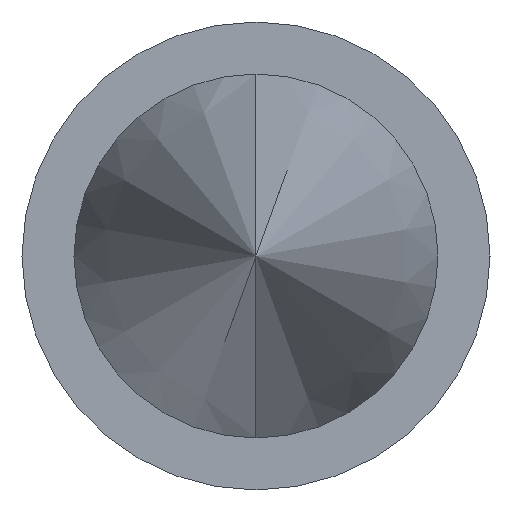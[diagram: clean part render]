
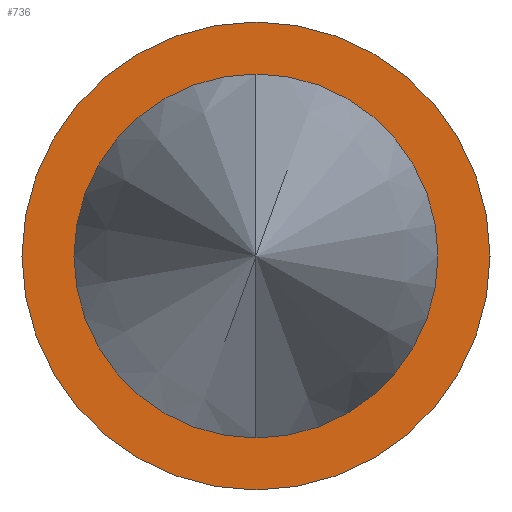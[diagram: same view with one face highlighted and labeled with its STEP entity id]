
A CAD part, left-side view. The second image highlights one B-rep face of the part: STEP entity #736.
In plain terms, the highlighted planar face has unit normal (-1, 0, 0).
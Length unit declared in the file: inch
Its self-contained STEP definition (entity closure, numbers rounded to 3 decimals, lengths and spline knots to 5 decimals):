
#8 = AXIS2_PLACEMENT_3D ( 'NONE', #221, #428, #302 ) ;
#13 = FACE_OUTER_BOUND ( 'NONE', #261, .T. ) ;
#32 = AXIS2_PLACEMENT_3D ( 'NONE', #722, #64, #194 ) ;
#43 = VERTEX_POINT ( 'NONE', #296 ) ;
#56 = CARTESIAN_POINT ( 'NONE',  ( 0.135, 0., 0. ) ) ;
#64 = DIRECTION ( 'NONE',  ( -1., 0., 0. ) ) ;
#71 = AXIS2_PLACEMENT_3D ( 'NONE', #56, #593, #457 ) ;
#73 = CIRCLE ( 'NONE', #71, 0.0135 ) ;
#81 = DIRECTION ( 'NONE',  ( 0., 0., -1. ) ) ;
#111 = VERTEX_POINT ( 'NONE', #502 ) ;
#140 = CIRCLE ( 'NONE', #32, 0.0105 ) ;
#194 = DIRECTION ( 'NONE',  ( 0., 0., 1. ) ) ;
#198 = EDGE_CURVE ( 'NONE', #680, #43, #796, .T. ) ;
#221 = CARTESIAN_POINT ( 'NONE',  ( 0.135, 0., 0. ) ) ;
#261 = EDGE_LOOP ( 'NONE', ( #315, #572 ) ) ;
#286 = FACE_BOUND ( 'NONE', #776, .T. ) ;
#296 = CARTESIAN_POINT ( 'NONE',  ( 0.135, 0., -0.0135 ) ) ;
#302 = DIRECTION ( 'NONE',  ( 0., 0., 1. ) ) ;
#315 = ORIENTED_EDGE ( 'NONE', *, *, #198, .T. ) ;
#411 = AXIS2_PLACEMENT_3D ( 'NONE', #613, #684, #81 ) ;
#428 = DIRECTION ( 'NONE',  ( -1., 0., 0. ) ) ;
#435 = EDGE_CURVE ( 'NONE', #111, #441, #820, .T. ) ;
#440 = AXIS2_PLACEMENT_3D ( 'NONE', #725, #775, #729 ) ;
#441 = VERTEX_POINT ( 'NONE', #615 ) ;
#457 = DIRECTION ( 'NONE',  ( 0., 0., 1. ) ) ;
#460 = CARTESIAN_POINT ( 'NONE',  ( 0.135, 0., 0.0135 ) ) ;
#502 = CARTESIAN_POINT ( 'NONE',  ( 0.135, 0., -0.0105 ) ) ;
#572 = ORIENTED_EDGE ( 'NONE', *, *, #677, .T. ) ;
#593 = DIRECTION ( 'NONE',  ( -1., 0., 0. ) ) ;
#605 = EDGE_CURVE ( 'NONE', #441, #111, #140, .T. ) ;
#613 = CARTESIAN_POINT ( 'NONE',  ( 0.135, -0.01366, 0.01366 ) ) ;
#615 = CARTESIAN_POINT ( 'NONE',  ( 0.135, 0., 0.0105 ) ) ;
#665 = ORIENTED_EDGE ( 'NONE', *, *, #605, .F. ) ;
#677 = EDGE_CURVE ( 'NONE', #43, #680, #73, .T. ) ;
#680 = VERTEX_POINT ( 'NONE', #460 ) ;
#684 = DIRECTION ( 'NONE',  ( 1., 0., 0. ) ) ;
#722 = CARTESIAN_POINT ( 'NONE',  ( 0.135, 0., 0. ) ) ;
#725 = CARTESIAN_POINT ( 'NONE',  ( 0.135, 0., 0. ) ) ;
#729 = DIRECTION ( 'NONE',  ( 0., 0., 1. ) ) ;
#736 = ADVANCED_FACE ( 'NONE', ( #286, #13 ), #807, .F. ) ;
#775 = DIRECTION ( 'NONE',  ( -1., 0., 0. ) ) ;
#776 = EDGE_LOOP ( 'NONE', ( #665, #833 ) ) ;
#796 = CIRCLE ( 'NONE', #440, 0.0135 ) ;
#807 = PLANE ( 'NONE',  #411 ) ;
#820 = CIRCLE ( 'NONE', #8, 0.0105 ) ;
#833 = ORIENTED_EDGE ( 'NONE', *, *, #435, .F. ) ;
